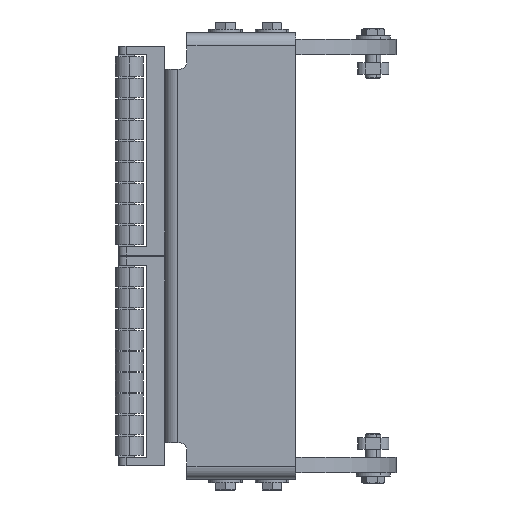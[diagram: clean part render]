
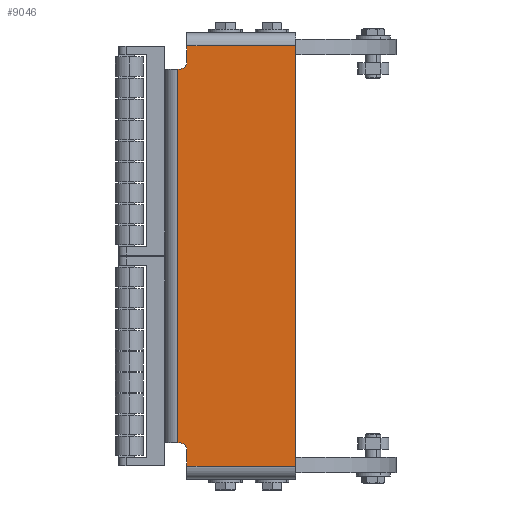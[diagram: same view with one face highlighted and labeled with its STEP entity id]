
A CAD part, left-side view. The second image highlights one B-rep face of the part: STEP entity #9046.
In plain terms, the highlighted planar face has unit normal (-1, 0, 0) as drawn and (1, 0, 0) by its records, which use the part's own axes.
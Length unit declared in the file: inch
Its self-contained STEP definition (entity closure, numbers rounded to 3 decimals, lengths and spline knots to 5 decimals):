
#8019=DIRECTION('',(0.,0.,-1.));
#8020=VECTOR('',#8019,6.);
#8021=CARTESIAN_POINT('',(0.,0.9605,3.));
#8022=LINE('',#8021,#8020);
#8027=DIRECTION('',(0.,-1.,0.));
#8028=VECTOR('',#8027,0.023);
#8029=CARTESIAN_POINT('',(0.,0.9605,3.));
#8030=LINE('',#8029,#8028);
#8031=DIRECTION('',(0.,1.,0.));
#8032=VECTOR('',#8031,0.023);
#8033=CARTESIAN_POINT('',(0.,0.9375,-3.));
#8034=LINE('',#8033,#8032);
#8035=CARTESIAN_POINT('',(0.,0.9375,-3.125));
#8036=DIRECTION('',(-1.,0.,0.));
#8037=DIRECTION('',(0.,-1.,0.));
#8038=AXIS2_PLACEMENT_3D('',#8035,#8036,#8037);
#8040=DIRECTION('',(0.,0.,1.));
#8041=VECTOR('',#8040,0.25);
#8042=CARTESIAN_POINT('',(0.,0.8125,-3.375));
#8043=LINE('',#8042,#8041);
#8044=DIRECTION('',(0.,0.,1.));
#8045=VECTOR('',#8044,0.25);
#8046=CARTESIAN_POINT('',(0.,0.8125,3.125));
#8047=LINE('',#8046,#8045);
#8048=CARTESIAN_POINT('',(0.,0.9375,3.125));
#8049=DIRECTION('',(-1.,0.,0.));
#8050=DIRECTION('',(0.,0.,-1.));
#8051=AXIS2_PLACEMENT_3D('',#8048,#8049,#8050);
#8229=DIRECTION('',(0.,1.,0.));
#8230=VECTOR('',#8229,1.75);
#8231=CARTESIAN_POINT('',(0.,-0.9375,3.375));
#8232=LINE('',#8231,#8230);
#8251=DIRECTION('',(0.,0.,1.));
#8252=VECTOR('',#8251,6.75);
#8253=CARTESIAN_POINT('',(0.,-0.9375,-3.375));
#8254=LINE('',#8253,#8252);
#8389=DIRECTION('',(0.,-1.,0.));
#8390=VECTOR('',#8389,1.75);
#8391=CARTESIAN_POINT('',(0.,0.8125,-3.375));
#8392=LINE('',#8391,#8390);
#8614=CARTESIAN_POINT('',(0.,0.9605,-3.));
#8616=VERTEX_POINT('',#8614);
#8645=CARTESIAN_POINT('',(0.,0.8125,-3.375));
#8646=CARTESIAN_POINT('',(0.,0.8125,-3.125));
#8647=VERTEX_POINT('',#8645);
#8648=VERTEX_POINT('',#8646);
#8659=CARTESIAN_POINT('',(0.,0.8125,3.125));
#8660=CARTESIAN_POINT('',(0.,0.8125,3.375));
#8661=VERTEX_POINT('',#8659);
#8662=VERTEX_POINT('',#8660);
#8713=CARTESIAN_POINT('',(0.,0.9375,-3.));
#8714=VERTEX_POINT('',#8713);
#8723=CARTESIAN_POINT('',(0.,0.9605,3.));
#8724=CARTESIAN_POINT('',(0.,0.9375,3.));
#8725=VERTEX_POINT('',#8723);
#8726=VERTEX_POINT('',#8724);
#8731=CARTESIAN_POINT('',(0.,-0.9375,-3.375));
#8732=VERTEX_POINT('',#8731);
#8743=CARTESIAN_POINT('',(0.,-0.9375,3.375));
#8744=VERTEX_POINT('',#8743);
#9020=CARTESIAN_POINT('',(0.,0.,0.));
#9021=DIRECTION('',(1.,0.,0.));
#9022=DIRECTION('',(0.,0.,-1.));
#9023=AXIS2_PLACEMENT_3D('',#9020,#9021,#9022);
#9024=PLANE('',#9023);
#9026=ORIENTED_EDGE('',*,*,#9025,.F.);
#9027=ORIENTED_EDGE('',*,*,#9011,.T.);
#9029=ORIENTED_EDGE('',*,*,#9028,.F.);
#9031=ORIENTED_EDGE('',*,*,#9030,.F.);
#9033=ORIENTED_EDGE('',*,*,#9032,.F.);
#9035=ORIENTED_EDGE('',*,*,#9034,.T.);
#9037=ORIENTED_EDGE('',*,*,#9036,.T.);
#9039=ORIENTED_EDGE('',*,*,#9038,.T.);
#9041=ORIENTED_EDGE('',*,*,#9040,.F.);
#9043=ORIENTED_EDGE('',*,*,#9042,.F.);
#9044=EDGE_LOOP('',(#9026,#9027,#9029,#9031,#9033,#9035,#9037,#9039,#9041,
#9043));
#9045=FACE_OUTER_BOUND('',#9044,.F.);
#8039=CIRCLE('',#8038,0.125);
#8052=CIRCLE('',#8051,0.125);
#9011=EDGE_CURVE('',#8725,#8616,#8022,.T.);
#9025=EDGE_CURVE('',#8725,#8726,#8030,.T.);
#9028=EDGE_CURVE('',#8714,#8616,#8034,.T.);
#9030=EDGE_CURVE('',#8648,#8714,#8039,.T.);
#9032=EDGE_CURVE('',#8647,#8648,#8043,.T.);
#9034=EDGE_CURVE('',#8647,#8732,#8392,.T.);
#9036=EDGE_CURVE('',#8732,#8744,#8254,.T.);
#9038=EDGE_CURVE('',#8744,#8662,#8232,.T.);
#9040=EDGE_CURVE('',#8661,#8662,#8047,.T.);
#9042=EDGE_CURVE('',#8726,#8661,#8052,.T.);
#9046=ADVANCED_FACE('',(#9045),#9024,.T.);
